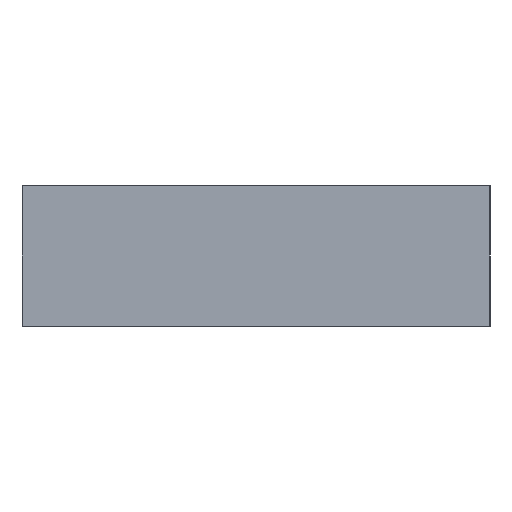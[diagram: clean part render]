
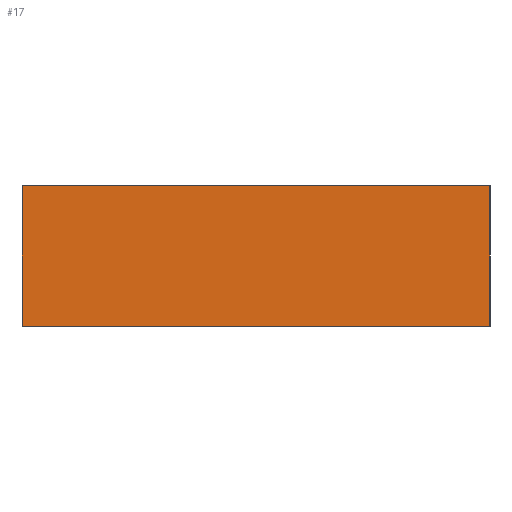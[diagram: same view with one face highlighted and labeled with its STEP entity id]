
A CAD part, left-side view. The second image highlights one B-rep face of the part: STEP entity #17.
In plain terms, the highlighted planar face has unit normal (-1, 0, 0).
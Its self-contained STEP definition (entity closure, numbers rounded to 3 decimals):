
#17 = ADVANCED_FACE('',(#18),#32,.F.);
#18 = FACE_BOUND('',#19,.F.);
#19 = EDGE_LOOP('',(#20,#55,#83,#111));
#20 = ORIENTED_EDGE('',*,*,#21,.F.);
#21 = EDGE_CURVE('',#22,#24,#26,.T.);
#22 = VERTEX_POINT('',#23);
#23 = CARTESIAN_POINT('',(0.,0.,0.));
#24 = VERTEX_POINT('',#25);
#25 = CARTESIAN_POINT('',(0.,0.,6.));
#26 = SURFACE_CURVE('',#27,(#31,#43),.PCURVE_S1.);
#27 = LINE('',#28,#29);
#28 = CARTESIAN_POINT('',(0.,0.,0.));
#29 = VECTOR('',#30,1.);
#30 = DIRECTION('',(0.,0.,1.));
#31 = PCURVE('',#32,#37);
#32 = PLANE('',#33);
#33 = AXIS2_PLACEMENT_3D('',#34,#35,#36);
#34 = CARTESIAN_POINT('',(0.,0.,0.));
#35 = DIRECTION('',(1.,0.,0.));
#36 = DIRECTION('',(0.,0.,1.));
#37 = DEFINITIONAL_REPRESENTATION('',(#38),#42);
#38 = LINE('',#39,#40);
#39 = CARTESIAN_POINT('',(0.,0.));
#40 = VECTOR('',#41,1.);
#41 = DIRECTION('',(1.,0.));
#42 = ( GEOMETRIC_REPRESENTATION_CONTEXT(2) 
PARAMETRIC_REPRESENTATION_CONTEXT() REPRESENTATION_CONTEXT('2D SPACE',''
  ) );
#43 = PCURVE('',#44,#49);
#44 = PLANE('',#45);
#45 = AXIS2_PLACEMENT_3D('',#46,#47,#48);
#46 = CARTESIAN_POINT('',(0.,0.,0.));
#47 = DIRECTION('',(0.,1.,0.));
#48 = DIRECTION('',(0.,0.,1.));
#49 = DEFINITIONAL_REPRESENTATION('',(#50),#54);
#50 = LINE('',#51,#52);
#51 = CARTESIAN_POINT('',(0.,0.));
#52 = VECTOR('',#53,1.);
#53 = DIRECTION('',(1.,0.));
#54 = ( GEOMETRIC_REPRESENTATION_CONTEXT(2) 
PARAMETRIC_REPRESENTATION_CONTEXT() REPRESENTATION_CONTEXT('2D SPACE',''
  ) );
#55 = ORIENTED_EDGE('',*,*,#56,.T.);
#56 = EDGE_CURVE('',#22,#57,#59,.T.);
#57 = VERTEX_POINT('',#58);
#58 = CARTESIAN_POINT('',(0.,20.,0.));
#59 = SURFACE_CURVE('',#60,(#64,#71),.PCURVE_S1.);
#60 = LINE('',#61,#62);
#61 = CARTESIAN_POINT('',(0.,0.,0.));
#62 = VECTOR('',#63,1.);
#63 = DIRECTION('',(0.,1.,0.));
#64 = PCURVE('',#32,#65);
#65 = DEFINITIONAL_REPRESENTATION('',(#66),#70);
#66 = LINE('',#67,#68);
#67 = CARTESIAN_POINT('',(0.,0.));
#68 = VECTOR('',#69,1.);
#69 = DIRECTION('',(0.,-1.));
#70 = ( GEOMETRIC_REPRESENTATION_CONTEXT(2) 
PARAMETRIC_REPRESENTATION_CONTEXT() REPRESENTATION_CONTEXT('2D SPACE',''
  ) );
#71 = PCURVE('',#72,#77);
#72 = PLANE('',#73);
#73 = AXIS2_PLACEMENT_3D('',#74,#75,#76);
#74 = CARTESIAN_POINT('',(0.,0.,0.));
#75 = DIRECTION('',(0.,0.,1.));
#76 = DIRECTION('',(1.,0.,0.));
#77 = DEFINITIONAL_REPRESENTATION('',(#78),#82);
#78 = LINE('',#79,#80);
#79 = CARTESIAN_POINT('',(0.,0.));
#80 = VECTOR('',#81,1.);
#81 = DIRECTION('',(0.,1.));
#82 = ( GEOMETRIC_REPRESENTATION_CONTEXT(2) 
PARAMETRIC_REPRESENTATION_CONTEXT() REPRESENTATION_CONTEXT('2D SPACE',''
  ) );
#83 = ORIENTED_EDGE('',*,*,#84,.T.);
#84 = EDGE_CURVE('',#57,#85,#87,.T.);
#85 = VERTEX_POINT('',#86);
#86 = CARTESIAN_POINT('',(0.,20.,6.));
#87 = SURFACE_CURVE('',#88,(#92,#99),.PCURVE_S1.);
#88 = LINE('',#89,#90);
#89 = CARTESIAN_POINT('',(0.,20.,0.));
#90 = VECTOR('',#91,1.);
#91 = DIRECTION('',(0.,0.,1.));
#92 = PCURVE('',#32,#93);
#93 = DEFINITIONAL_REPRESENTATION('',(#94),#98);
#94 = LINE('',#95,#96);
#95 = CARTESIAN_POINT('',(0.,-20.));
#96 = VECTOR('',#97,1.);
#97 = DIRECTION('',(1.,0.));
#98 = ( GEOMETRIC_REPRESENTATION_CONTEXT(2) 
PARAMETRIC_REPRESENTATION_CONTEXT() REPRESENTATION_CONTEXT('2D SPACE',''
  ) );
#99 = PCURVE('',#100,#105);
#100 = PLANE('',#101);
#101 = AXIS2_PLACEMENT_3D('',#102,#103,#104);
#102 = CARTESIAN_POINT('',(0.,20.,0.));
#103 = DIRECTION('',(0.,1.,0.));
#104 = DIRECTION('',(0.,0.,1.));
#105 = DEFINITIONAL_REPRESENTATION('',(#106),#110);
#106 = LINE('',#107,#108);
#107 = CARTESIAN_POINT('',(0.,0.));
#108 = VECTOR('',#109,1.);
#109 = DIRECTION('',(1.,0.));
#110 = ( GEOMETRIC_REPRESENTATION_CONTEXT(2) 
PARAMETRIC_REPRESENTATION_CONTEXT() REPRESENTATION_CONTEXT('2D SPACE',''
  ) );
#111 = ORIENTED_EDGE('',*,*,#112,.F.);
#112 = EDGE_CURVE('',#24,#85,#113,.T.);
#113 = SURFACE_CURVE('',#114,(#118,#125),.PCURVE_S1.);
#114 = LINE('',#115,#116);
#115 = CARTESIAN_POINT('',(0.,0.,6.));
#116 = VECTOR('',#117,1.);
#117 = DIRECTION('',(0.,1.,0.));
#118 = PCURVE('',#32,#119);
#119 = DEFINITIONAL_REPRESENTATION('',(#120),#124);
#120 = LINE('',#121,#122);
#121 = CARTESIAN_POINT('',(6.,0.));
#122 = VECTOR('',#123,1.);
#123 = DIRECTION('',(0.,-1.));
#124 = ( GEOMETRIC_REPRESENTATION_CONTEXT(2) 
PARAMETRIC_REPRESENTATION_CONTEXT() REPRESENTATION_CONTEXT('2D SPACE',''
  ) );
#125 = PCURVE('',#126,#131);
#126 = PLANE('',#127);
#127 = AXIS2_PLACEMENT_3D('',#128,#129,#130);
#128 = CARTESIAN_POINT('',(0.,0.,6.));
#129 = DIRECTION('',(0.,0.,1.));
#130 = DIRECTION('',(1.,0.,0.));
#131 = DEFINITIONAL_REPRESENTATION('',(#132),#136);
#132 = LINE('',#133,#134);
#133 = CARTESIAN_POINT('',(0.,0.));
#134 = VECTOR('',#135,1.);
#135 = DIRECTION('',(0.,1.));
#136 = ( GEOMETRIC_REPRESENTATION_CONTEXT(2) 
PARAMETRIC_REPRESENTATION_CONTEXT() REPRESENTATION_CONTEXT('2D SPACE',''
  ) );
